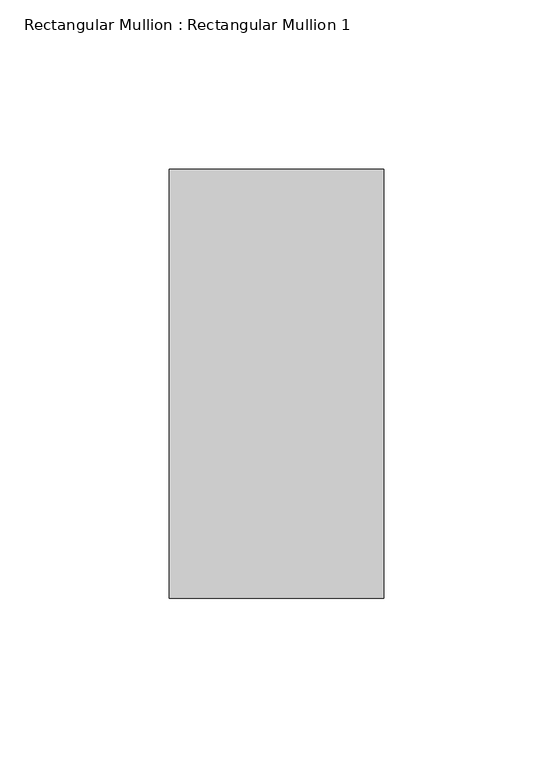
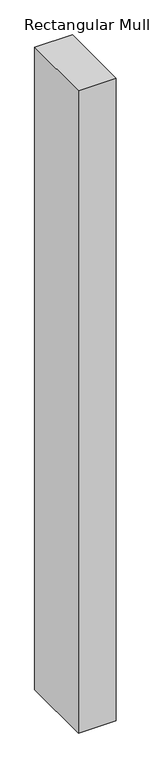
"""IFC4 building model written with IfcOpenShell, lengths in millimetres: member geometry, Rectangular Mullion : Rectangular Mullion 1."""

from ifc_helpers import new_model, si_unit, frame, origin, place, context, project, spatial, polyline, outline, extrude, source, transform, mapped, element, save


def rectangular_mullion_rectangular_mullion_1_b7acc795(model_context):
    return source(origin(), model_context, "Body", "SweptSolid", [
        extrude(outline(polyline([(0.0, 63.5), (0.0, -63.5), (-63.5, -63.5), (-63.5, 63.5), (0.0, 63.5)])), frame((0.0, 0.0, -1139.848184), z_axis=(0.0, 0.0, 1.0), x_axis=(1.0, 0.0, 0.0)), (0.0, 0.0, 1.0), 1139.848184),
    ])


if __name__ == "__main__":
    model = new_model("IFC4")
    model_context = context("Model", 3, world=origin())
    ifc_project = project(units=[si_unit("LENGTHUNIT", "METRE", prefix="MILLI")], contexts=[model_context])
    site = spatial("IfcSite", under=ifc_project)
    building = spatial("IfcBuilding", under=site)
    placement = place(None, origin())
    rectangular_mullion_rectangular_mullion_1_shape = rectangular_mullion_rectangular_mullion_1_b7acc795(model_context)
    element("IfcMember", 1, ObjectType="Rectangular Mullion : Rectangular Mullion 1", at=placement, inside=building, context=model_context, shape_type="MappedRepresentation", body=[
        mapped(rectangular_mullion_rectangular_mullion_1_shape, transform((0.0, 0.0, 0.0), x_axis=(1.0, 0.0, 0.0), y_axis=(0.0, 1.0, 0.0), z_axis=(0.0, 0.0, 1.0))),
    ])
    save(model, "model.ifc")
